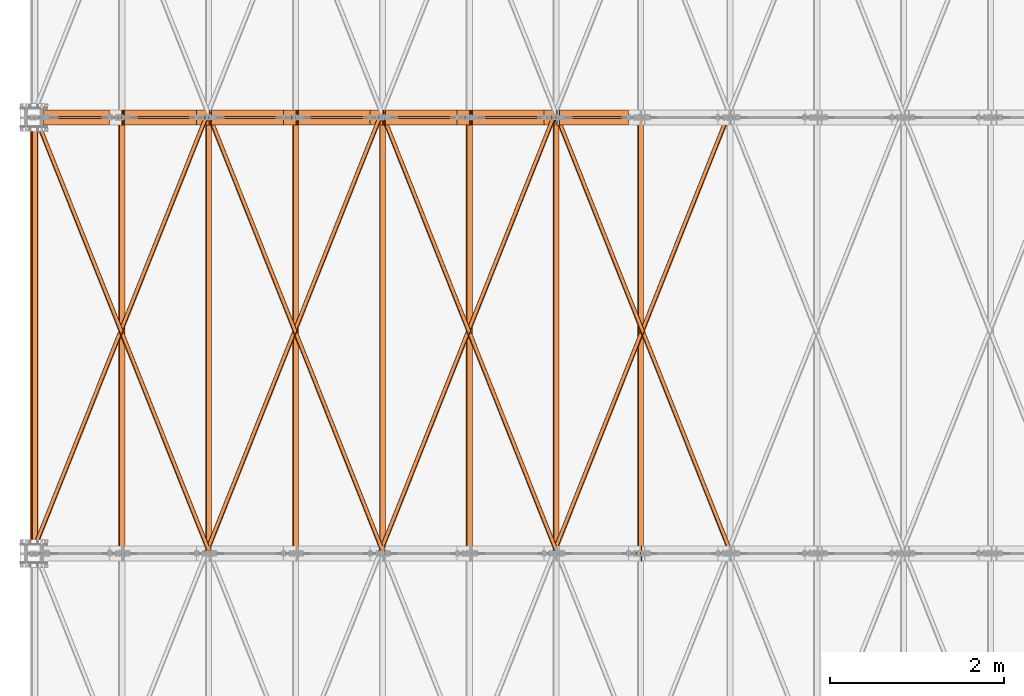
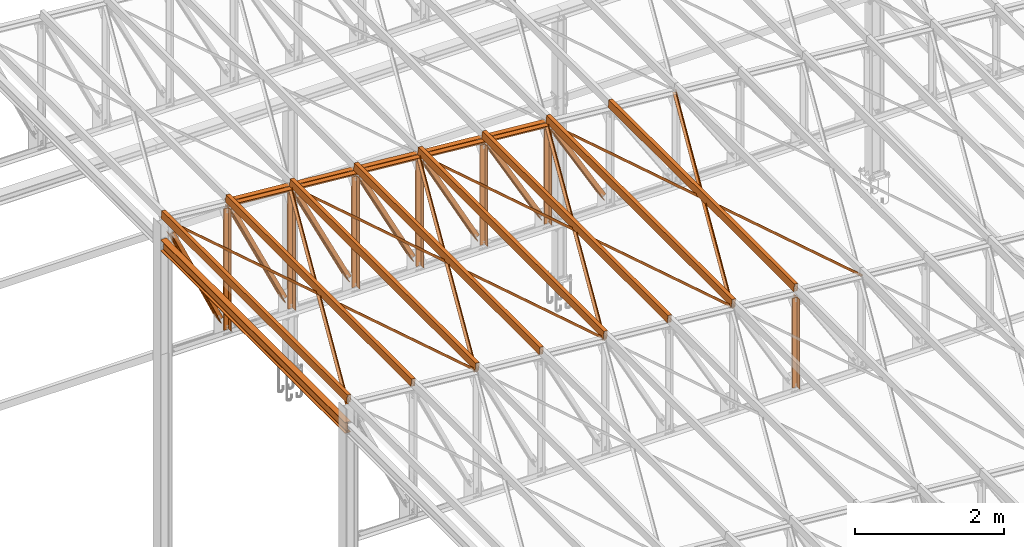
# One storey, part 239 of 251: 47 proxies.
"""IFC4 building model written with IfcOpenShell, lengths in metres."""

from ifc_helpers import new_model, si_unit, frame, frame_2d, origin_with_axes, origin_2d_with_axis, place, context, project, spatial, polyline, hollow_rectangle, i_section, l_section, outline, extrude, clip, halfspace, material, material_profile, profile_set, profile_usage, type_object, element, save


model = new_model("IFC4")

# Units and contexts
model_context = context("Model", 3, precision=1e-05, world=origin_with_axes())
ifc_project = project(units=[si_unit("LENGTHUNIT", "METRE"), si_unit("AREAUNIT", "SQUARE_METRE"), si_unit("VOLUMEUNIT", "CUBIC_METRE"), si_unit("MASSUNIT", "GRAM", prefix="KILO"), si_unit("TIMEUNIT", "SECOND"), si_unit("PLANEANGLEUNIT", "RADIAN"), si_unit("SOLIDANGLEUNIT", "STERADIAN"), si_unit("THERMODYNAMICTEMPERATUREUNIT", "DEGREE_CELSIUS")], contexts=[model_context])

# Site, building, storey
placement_1 = place(None, origin_with_axes())
site = spatial("IfcSite", under=ifc_project, at=placement_1, Name="Italia", CompositionType="ELEMENT")
building = spatial("IfcBuilding", under=site, at=placement_1, Name="Deposito", CompositionType="ELEMENT")
storey = spatial("IfcBuildingStorey", under=building, at=placement_1, Name="Storey 0", CompositionType="ELEMENT", Elevation=0.0)

# Proxies
ifc_material = material(Name="Acciaio", Category="Acciaio")
ifc_material_profile = material_profile(ifc_material, i_section(OverallWidth=0.2, OverallDepth=0.19, WebThickness=0.006, FlangeThickness=0.01, FilletRadius=0.018, at=origin_2d_with_axis()), Name="7 PILASTRO HEA200")
ifc_profile_set = profile_set([ifc_material_profile])
ifc_profile_usage_1 = profile_usage(ifc_profile_set, cardinal=1)
member_type_1 = type_object("IfcMemberType", Name="5 2L80x8", PredefinedType="MEMBER", material=ifc_profile_usage_1)
placement_2 = place(placement_1, origin_with_axes())
proxy_1_placement = place(placement_2, origin_with_axes())
element("IfcBuildingElementProxy", 1, at=proxy_1_placement, inside=storey, type_object=member_type_1, Name="40", context=model_context, shape_type="SweptSolid", body=[
    extrude(outline(polyline([(0.0, 0.0), (-0.0799999, 0.0), (-0.0799999, 0.00800037), (-0.00799942, 0.00800037), (-0.00799942, 0.0799999), (0.0, 0.0799999), (0.0, 0.0)])), frame((13.0225, 9.995, 5.06753), z_axis=(0.0, 0.0, 1.0), x_axis=(0.0, 1.0, 0.0)), (0.0, 0.0, 1.0), 1.47286),
])
ifc_profile_usage_2 = profile_usage(ifc_profile_set, cardinal=1)
member_type_2 = type_object("IfcMemberType", Name="5 2L80x8", PredefinedType="MEMBER", material=ifc_profile_usage_2)
proxy_2_placement = place(placement_2, origin_with_axes())
element("IfcBuildingElementProxy", 2, at=proxy_2_placement, inside=storey, type_object=member_type_2, Name="40", context=model_context, shape_type="SweptSolid", body=[
    extrude(outline(polyline([(0.0, 0.0), (0.00799942, 0.0), (0.00799942, -0.0719995), (0.0799999, -0.0719995), (0.0799999, -0.0799999), (0.0, -0.0799999), (0.0, 0.0)])), frame((12.9425, 10.005, 5.06753), z_axis=(0.0, 0.0, 1.0), x_axis=(0.0, 1.0, 0.0)), (0.0, 0.0, 1.0), 1.47286),
])
ifc_profile_usage_3 = profile_usage(ifc_profile_set, cardinal=1)
member_type_3 = type_object("IfcMemberType", Name="5 2L80x8", PredefinedType="MEMBER", material=ifc_profile_usage_3)
proxy_3_placement = place(placement_2, origin_with_axes())
element("IfcBuildingElementProxy", 3, at=proxy_3_placement, inside=storey, type_object=member_type_3, Name="170004", context=model_context, shape_type="SweptSolid", body=[
    extrude(outline(polyline([(0.0, 0.0), (-0.0799999, 0.0), (-0.0799999, 0.00800037), (-0.00799942, 0.00800037), (-0.00799942, 0.0799999), (0.0, 0.0799999), (0.0, 0.0)])), frame((12.0716, 14.995, 6.57981), z_axis=(0.496024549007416, 0.0, -0.868308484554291), x_axis=(0.0, 1.0, 0.0)), (0.0, 0.0, 1.0), 1.5955),
])
ifc_profile_usage_4 = profile_usage(ifc_profile_set, cardinal=1)
member_type_4 = type_object("IfcMemberType", Name="5 2L80x8", PredefinedType="MEMBER", material=ifc_profile_usage_4)
proxy_4_placement = place(placement_2, origin_with_axes())
element("IfcBuildingElementProxy", 4, at=proxy_4_placement, inside=storey, type_object=member_type_4, Name="170004", context=model_context, shape_type="SweptSolid", body=[
    extrude(outline(polyline([(0.0, 0.0), (0.00799942, 0.0), (0.00799942, -0.0719986), (0.0799999, -0.0719986), (0.0799999, -0.079999), (0.0, -0.079999), (0.0, 0.0)])), frame((12.1411, 15.005, 6.6195), z_axis=(0.496024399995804, 0.0, -0.868308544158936), x_axis=(0.0, 1.0, 0.0)), (0.0, 0.0, 1.0), 1.59551),
])
ifc_profile_usage_5 = profile_usage(ifc_profile_set, cardinal=2)
member_type_5 = type_object("IfcMemberType", Name="5 2L80x8", PredefinedType="MEMBER", material=ifc_profile_usage_5)
proxy_5_placement = place(placement_2, origin_with_axes())
element("IfcBuildingElementProxy", 5, at=proxy_5_placement, inside=storey, type_object=member_type_5, Name="230074", context=model_context, shape_type="SweptSolid", body=[
    extrude(outline(polyline([(0.0, 0.0), (0.0799999, 0.0), (0.0799999, -0.00800085), (0.00799942, -0.00800085), (0.00799942, -0.0799999), (0.0, -0.0799999), (0.0, 0.0)])), frame((7.05143, 15.005, 7.15546), z_axis=(0.996194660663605, 0.0, -0.087155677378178), x_axis=(0.0, 1.0, 0.0)), (0.0, 0.0, 1.0), 4.99498),
])
ifc_profile_usage_6 = profile_usage(ifc_profile_set, cardinal=2)
member_type_6 = type_object("IfcMemberType", Name="5 2L80x8", PredefinedType="MEMBER", material=ifc_profile_usage_6)
proxy_6_placement = place(placement_2, origin_with_axes())
element("IfcBuildingElementProxy", 6, at=proxy_6_placement, inside=storey, type_object=member_type_6, Name="230074", context=model_context, shape_type="SweptSolid", body=[
    extrude(outline(polyline([(0.0, 0.0), (-0.00799942, 0.0), (-0.00799942, 0.0719991), (-0.0799999, 0.0719991), (-0.0799999, 0.0799994), (0.0, 0.0799994), (0.0, 0.0)])), frame((7.04446, 14.995, 7.07576), z_axis=(0.99619472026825, 0.0, -0.087155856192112), x_axis=(0.0, 1.0, 0.0)), (0.0, 0.0, 1.0), 4.99498),
])
ifc_profile_usage_7 = profile_usage(ifc_profile_set, cardinal=1)
member_type_7 = type_object("IfcMemberType", Name="5 2L80x8", PredefinedType="MEMBER", material=ifc_profile_usage_7)
proxy_7_placement = place(placement_2, origin_with_axes())
element("IfcBuildingElementProxy", 7, at=proxy_7_placement, inside=storey, type_object=member_type_7, Name="54", context=model_context, shape_type="SweptSolid", body=[
    extrude(outline(polyline([(0.0, 0.0), (-0.0799999, 0.0), (-0.0799999, 0.00800037), (-0.00799942, 0.00800037), (-0.00799942, 0.0799999), (0.0, 0.0799999), (0.0, 0.0)])), frame((12.053, 14.995, 5.06753), z_axis=(0.0, 0.0, 1.0), x_axis=(0.0, 1.0, 0.0)), (0.0, 0.0, 1.0), 1.55988),
])
ifc_profile_usage_8 = profile_usage(ifc_profile_set, cardinal=1)
member_type_8 = type_object("IfcMemberType", Name="5 2L80x8", PredefinedType="MEMBER", material=ifc_profile_usage_8)
proxy_8_placement = place(placement_2, origin_with_axes())
element("IfcBuildingElementProxy", 8, at=proxy_8_placement, inside=storey, type_object=member_type_8, Name="54", context=model_context, shape_type="SweptSolid", body=[
    extrude(outline(polyline([(0.0, 0.0), (0.00799942, 0.0), (0.00799942, -0.0719995), (0.0799999, -0.0719995), (0.0799999, -0.0799999), (0.0, -0.0799999), (0.0, 0.0)])), frame((11.973, 15.005, 5.06753), z_axis=(0.0, 0.0, 1.0), x_axis=(0.0, 1.0, 0.0)), (0.0, 0.0, 1.0), 1.55988),
])
ifc_profile_usage_9 = profile_usage(ifc_profile_set, cardinal=1)
member_type_9 = type_object("IfcMemberType", Name="5 2L80x8", PredefinedType="MEMBER", material=ifc_profile_usage_9)
proxy_9_placement = place(placement_2, origin_with_axes())
element("IfcBuildingElementProxy", 9, at=proxy_9_placement, inside=storey, type_object=member_type_9, Name="180004", context=model_context, shape_type="SweptSolid", body=[
    extrude(outline(polyline([(0.0, 0.0), (-0.0799999, 0.0), (-0.0799999, 0.00799942), (-0.00799942, 0.00799942), (-0.00799942, 0.0799999), (0.0, 0.0799999), (0.0, 0.0)])), frame((11.0734, 14.995, 6.66808), z_axis=(0.487459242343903, 0.0, -0.873145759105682), x_axis=(0.0, 1.0, 0.0)), (0.0, 0.0, 1.0), 1.68149),
])
ifc_profile_usage_10 = profile_usage(ifc_profile_set, cardinal=1)
member_type_10 = type_object("IfcMemberType", Name="5 2L80x8", PredefinedType="MEMBER", material=ifc_profile_usage_10)
proxy_10_placement = place(placement_2, origin_with_axes())
element("IfcBuildingElementProxy", 10, at=proxy_10_placement, inside=storey, type_object=member_type_10, Name="180004", context=model_context, shape_type="SweptSolid", body=[
    extrude(outline(polyline([(0.0, 0.0), (0.00799942, 0.0), (0.00799942, -0.0719986), (0.0799999, -0.0719986), (0.0799999, -0.079998), (0.0, -0.079998), (0.0, 0.0)])), frame((11.1433, 15.005, 6.70707), z_axis=(0.487459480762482, 0.0, -0.873145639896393), x_axis=(0.0, 1.0, 0.0)), (0.0, 0.0, 1.0), 1.68149),
])
ifc_profile_usage_11 = profile_usage(ifc_profile_set, cardinal=1)
member_type_11 = type_object("IfcMemberType", Name="5 2L80x8", PredefinedType="MEMBER", material=ifc_profile_usage_11)
proxy_11_placement = place(placement_2, origin_with_axes())
element("IfcBuildingElementProxy", 11, at=proxy_11_placement, inside=storey, type_object=member_type_11, Name="53", context=model_context, shape_type="SweptSolid", body=[
    extrude(outline(polyline([(0.0, 0.0), (-0.0799999, 0.0), (-0.0799999, 0.00800037), (-0.00799942, 0.00800037), (-0.00799942, 0.0799999), (0.0, 0.0799999), (0.0, 0.0)])), frame((11.0568, 14.995, 5.06753), z_axis=(0.0, 0.0, 1.0), x_axis=(0.0, 1.0, 0.0)), (0.0, 0.0, 1.0), 1.64711),
])
ifc_profile_usage_12 = profile_usage(ifc_profile_set, cardinal=1)
member_type_12 = type_object("IfcMemberType", Name="5 2L80x8", PredefinedType="MEMBER", material=ifc_profile_usage_12)
proxy_12_placement = place(placement_2, origin_with_axes())
element("IfcBuildingElementProxy", 12, at=proxy_12_placement, inside=storey, type_object=member_type_12, Name="53", context=model_context, shape_type="SweptSolid", body=[
    extrude(outline(polyline([(0.0, 0.0), (0.00799942, 0.0), (0.00799942, -0.0719995), (0.0799999, -0.0719995), (0.0799999, -0.0799999), (0.0, -0.0799999), (0.0, 0.0)])), frame((10.9768, 15.005, 5.06753), z_axis=(0.0, 0.0, 1.0), x_axis=(0.0, 1.0, 0.0)), (0.0, 0.0, 1.0), 1.64711),
])
ifc_profile_usage_13 = profile_usage(ifc_profile_set, cardinal=1)
member_type_13 = type_object("IfcMemberType", Name="5 2L80x8", PredefinedType="MEMBER", material=ifc_profile_usage_13)
proxy_13_placement = place(placement_2, origin_with_axes())
element("IfcBuildingElementProxy", 13, at=proxy_13_placement, inside=storey, type_object=member_type_13, Name="190004", context=model_context, shape_type="SweptSolid", body=[
    extrude(outline(polyline([(0.0, 0.0), (-0.0799999, 0.0), (-0.0799999, 0.00799942), (-0.00799942, 0.00799942), (-0.00799942, 0.0799999), (0.0, 0.0799999), (0.0, 0.0)])), frame((10.0736, 14.995, 6.75689), z_axis=(0.469864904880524, 0.0, -0.882738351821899), x_axis=(0.0, 1.0, 0.0)), (0.0, 0.0, 1.0), 1.75054),
])
ifc_profile_usage_14 = profile_usage(ifc_profile_set, cardinal=1)
member_type_14 = type_object("IfcMemberType", Name="5 2L80x8", PredefinedType="MEMBER", material=ifc_profile_usage_14)
proxy_14_placement = place(placement_2, origin_with_axes())
element("IfcBuildingElementProxy", 14, at=proxy_14_placement, inside=storey, type_object=member_type_14, Name="190004", context=model_context, shape_type="SweptSolid", body=[
    extrude(outline(polyline([(0.0, 0.0), (0.00799942, 0.0), (0.00799942, -0.0720005), (0.0799999, -0.0720005), (0.0799999, -0.0799999), (0.0, -0.0799999), (0.0, 0.0)])), frame((10.1442, 15.005, 6.79448), z_axis=(0.469864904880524, 0.0, -0.882738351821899), x_axis=(0.0, 1.0, 0.0)), (0.0, 0.0, 1.0), 1.75054),
])
ifc_profile_usage_15 = profile_usage(ifc_profile_set, cardinal=1)
member_type_15 = type_object("IfcMemberType", Name="5 2L80x8", PredefinedType="MEMBER", material=ifc_profile_usage_15)
proxy_15_placement = place(placement_2, origin_with_axes())
element("IfcBuildingElementProxy", 15, at=proxy_15_placement, inside=storey, type_object=member_type_15, Name="52", context=model_context, shape_type="SweptSolid", body=[
    extrude(outline(polyline([(0.0, 0.0), (-0.0799999, 0.0), (-0.0799999, 0.00800037), (-0.00799942, 0.00800037), (-0.00799942, 0.0799999), (0.0, 0.0799999), (0.0, 0.0)])), frame((10.0606, 14.995, 5.06753), z_axis=(0.0, 0.0, 1.0), x_axis=(0.0, 1.0, 0.0)), (0.0, 0.0, 1.0), 1.73426),
])
ifc_profile_usage_16 = profile_usage(ifc_profile_set, cardinal=1)
member_type_16 = type_object("IfcMemberType", Name="5 2L80x8", PredefinedType="MEMBER", material=ifc_profile_usage_16)
proxy_16_placement = place(placement_2, origin_with_axes())
element("IfcBuildingElementProxy", 16, at=proxy_16_placement, inside=storey, type_object=member_type_16, Name="52", context=model_context, shape_type="SweptSolid", body=[
    extrude(outline(polyline([(0.0, 0.0), (0.00799942, 0.0), (0.00799942, -0.0719995), (0.0799999, -0.0719995), (0.0799999, -0.0799999), (0.0, -0.0799999), (0.0, 0.0)])), frame((9.98057, 15.005, 5.06753), z_axis=(0.0, 0.0, 1.0), x_axis=(0.0, 1.0, 0.0)), (0.0, 0.0, 1.0), 1.73426),
])
ifc_profile_usage_17 = profile_usage(ifc_profile_set, cardinal=1)
member_type_17 = type_object("IfcMemberType", Name="5 2L80x8", PredefinedType="MEMBER", material=ifc_profile_usage_17)
proxy_17_placement = place(placement_2, origin_with_axes())
element("IfcBuildingElementProxy", 17, at=proxy_17_placement, inside=storey, type_object=member_type_17, Name="200004", context=model_context, shape_type="SweptSolid", body=[
    extrude(outline(polyline([(0.0, 0.0), (-0.0799999, 0.0), (-0.0799999, 0.00800133), (-0.00799942, 0.00800133), (-0.00799942, 0.0799999), (0.0, 0.0799999), (0.0, 0.0)])), frame((9.07443, 14.995, 6.84501), z_axis=(0.453332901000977, 0.0, -0.891341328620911), x_axis=(0.0, 1.0, 0.0)), (0.0, 0.0, 1.0), 1.81939),
])
ifc_profile_usage_18 = profile_usage(ifc_profile_set, cardinal=1)
member_type_18 = type_object("IfcMemberType", Name="5 2L80x8", PredefinedType="MEMBER", material=ifc_profile_usage_18)
proxy_18_placement = place(placement_2, origin_with_axes())
element("IfcBuildingElementProxy", 18, at=proxy_18_placement, inside=storey, type_object=member_type_18, Name="200004", context=model_context, shape_type="SweptSolid", body=[
    extrude(outline(polyline([(0.0, 0.0), (0.00799942, 0.0), (0.00799942, -0.0719986), (0.0799999, -0.0719986), (0.0799999, -0.079999), (0.0, -0.079999), (0.0, 0.0)])), frame((9.14573, 15.005, 6.88128), z_axis=(0.453332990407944, 0.0, -0.891341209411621), x_axis=(0.0, 1.0, 0.0)), (0.0, 0.0, 1.0), 1.81938),
])
ifc_profile_usage_19 = profile_usage(ifc_profile_set, cardinal=1)
member_type_19 = type_object("IfcMemberType", Name="5 2L80x8", PredefinedType="MEMBER", material=ifc_profile_usage_19)
proxy_19_placement = place(placement_2, origin_with_axes())
element("IfcBuildingElementProxy", 19, at=proxy_19_placement, inside=storey, type_object=member_type_19, Name="51", context=model_context, shape_type="SweptSolid", body=[
    extrude(outline(polyline([(0.0, 0.0), (-0.0799999, 0.0), (-0.0799999, 0.00800037), (-0.00799942, 0.00800037), (-0.00799942, 0.0799999), (0.0, 0.0799999), (0.0, 0.0)])), frame((9.06438, 14.995, 5.06753), z_axis=(0.0, 0.0, 1.0), x_axis=(0.0, 1.0, 0.0)), (0.0, 0.0, 1.0), 1.82142),
])
ifc_profile_usage_20 = profile_usage(ifc_profile_set, cardinal=1)
member_type_20 = type_object("IfcMemberType", Name="5 2L80x8", PredefinedType="MEMBER", material=ifc_profile_usage_20)
proxy_20_placement = place(placement_2, origin_with_axes())
element("IfcBuildingElementProxy", 20, at=proxy_20_placement, inside=storey, type_object=member_type_20, Name="51", context=model_context, shape_type="SweptSolid", body=[
    extrude(outline(polyline([(0.0, 0.0), (0.00799942, 0.0), (0.00799942, -0.0719995), (0.0799999, -0.0719995), (0.0799999, -0.0799999), (0.0, -0.0799999), (0.0, 0.0)])), frame((8.98438, 15.005, 5.06753), z_axis=(0.0, 0.0, 1.0), x_axis=(0.0, 1.0, 0.0)), (0.0, 0.0, 1.0), 1.82142),
])
ifc_profile_usage_21 = profile_usage(ifc_profile_set, cardinal=1)
member_type_21 = type_object("IfcMemberType", Name="5 2L80x8", PredefinedType="MEMBER", material=ifc_profile_usage_21)
proxy_21_placement = place(placement_2, origin_with_axes())
element("IfcBuildingElementProxy", 21, at=proxy_21_placement, inside=storey, type_object=member_type_21, Name="210004", context=model_context, shape_type="SweptSolid", body=[
    extrude(outline(polyline([(0.0, 0.0), (-0.0799999, 0.0), (-0.0799999, 0.00799942), (-0.00799942, 0.00799942), (-0.00799942, 0.0799999), (0.0, 0.0799999), (0.0, 0.0)])), frame((8.07823, 14.995, 6.92755), z_axis=(0.437787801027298, 0.0, -0.89907830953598), x_axis=(0.0, 1.0, 0.0)), (0.0, 0.0, 1.0), 1.88258),
])
ifc_profile_usage_22 = profile_usage(ifc_profile_set, cardinal=1)
member_type_22 = type_object("IfcMemberType", Name="5 2L80x8", PredefinedType="MEMBER", material=ifc_profile_usage_22)
proxy_22_placement = place(placement_2, origin_with_axes())
element("IfcBuildingElementProxy", 22, at=proxy_22_placement, inside=storey, type_object=member_type_22, Name="210004", context=model_context, shape_type="SweptSolid", body=[
    extrude(outline(polyline([(0.0, 0.0), (0.00799942, 0.0), (0.00799942, -0.0719995), (0.0799999, -0.0719995), (0.0799999, -0.0799999), (0.0, -0.0799999), (0.0, 0.0)])), frame((8.15016, 15.005, 6.96258), z_axis=(0.437788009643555, 0.0, -0.899078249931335), x_axis=(0.0, 1.0, 0.0)), (0.0, 0.0, 1.0), 1.88258),
])
ifc_profile_usage_23 = profile_usage(ifc_profile_set, cardinal=1)
member_type_23 = type_object("IfcMemberType", Name="5 2L80x8", PredefinedType="MEMBER", material=ifc_profile_usage_23)
proxy_23_placement = place(placement_2, origin_with_axes())
element("IfcBuildingElementProxy", 23, at=proxy_23_placement, inside=storey, type_object=member_type_23, Name="50", context=model_context, shape_type="SweptSolid", body=[
    extrude(outline(polyline([(0.0, 0.0), (-0.0799999, 0.0), (-0.0799999, 0.00800037), (-0.00799942, 0.00800037), (-0.00799942, 0.0800004), (0.0, 0.0800004), (0.0, 0.0)])), frame((8.06818, 14.995, 5.06753), z_axis=(0.0, 0.0, 1.0), x_axis=(0.0, 1.0, 0.0)), (0.0, 0.0, 1.0), 1.90857),
])
ifc_profile_usage_24 = profile_usage(ifc_profile_set, cardinal=1)
member_type_24 = type_object("IfcMemberType", Name="5 2L80x8", PredefinedType="MEMBER", material=ifc_profile_usage_24)
proxy_24_placement = place(placement_2, origin_with_axes())
element("IfcBuildingElementProxy", 24, at=proxy_24_placement, inside=storey, type_object=member_type_24, Name="50", context=model_context, shape_type="SweptSolid", body=[
    extrude(outline(polyline([(0.0, 0.0), (0.00799942, 0.0), (0.00799942, -0.072), (0.0799999, -0.072), (0.0799999, -0.0800004), (0.0, -0.0800004), (0.0, 0.0)])), frame((7.98818, 15.005, 5.06753), z_axis=(0.0, 0.0, 1.0), x_axis=(0.0, 1.0, 0.0)), (0.0, 0.0, 1.0), 1.90857),
])
ifc_profile_usage_25 = profile_usage(ifc_profile_set, cardinal=1)
member_type_25 = type_object("IfcMemberType", Name="5 2L80x8", PredefinedType="MEMBER", material=ifc_profile_usage_25)
proxy_25_placement = place(placement_2, origin_with_axes())
element("IfcBuildingElementProxy", 25, at=proxy_25_placement, inside=storey, type_object=member_type_25, Name="220004", context=model_context, shape_type="SweptSolid", body=[
    extrude(outline(polyline([(0.0, 0.0), (-0.0799999, 0.0), (-0.0799999, 0.00800037), (-0.00799942, 0.00800037), (-0.00799942, 0.0800009), (0.0, 0.0800009), (0.0, 0.0)])), frame((7.08204, 14.995, 7.01008), z_axis=(0.423158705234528, 0.0, -0.906055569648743), x_axis=(0.0, 1.0, 0.0)), (0.0, 0.0, 1.0), 1.94634),
])
ifc_profile_usage_26 = profile_usage(ifc_profile_set, cardinal=1)
member_type_26 = type_object("IfcMemberType", Name="5 2L80x8", PredefinedType="MEMBER", material=ifc_profile_usage_26)
proxy_26_placement = place(placement_2, origin_with_axes())
element("IfcBuildingElementProxy", 26, at=proxy_26_placement, inside=storey, type_object=member_type_26, Name="220004", context=model_context, shape_type="SweptSolid", body=[
    extrude(outline(polyline([(0.0, 0.0), (0.00799942, 0.0), (0.00799942, -0.0720005), (0.0799999, -0.0720005), (0.0799999, -0.0800009), (0.0, -0.0800009), (0.0, 0.0)])), frame((7.15452, 15.005, 7.04394), z_axis=(0.423158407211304, 0.0, -0.906055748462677), x_axis=(0.0, 1.0, 0.0)), (0.0, 0.0, 1.0), 1.94634),
])
ifc_profile_usage_27 = profile_usage(ifc_profile_set, cardinal=1)
member_type_27 = type_object("IfcMemberType", Name="5 2L80x8", PredefinedType="MEMBER", material=ifc_profile_usage_27)
proxy_27_placement = place(placement_2, origin_with_axes())
element("IfcBuildingElementProxy", 27, at=proxy_27_placement, inside=storey, type_object=member_type_27, Name="49", context=model_context, shape_type="SweptSolid", body=[
    extrude(outline(polyline([(0.0, 0.0), (-0.0799999, 0.0), (-0.0799999, 0.0079999), (-0.00799942, 0.0079999), (-0.00799942, 0.0799999), (0.0, 0.0799999), (0.0, 0.0)])), frame((7.07199, 14.995, 5.06753), z_axis=(0.0, 0.0, 1.0), x_axis=(0.0, 1.0, 0.0)), (0.0, 0.0, 1.0), 1.99573),
])
ifc_profile_usage_28 = profile_usage(ifc_profile_set, cardinal=1)
member_type_28 = type_object("IfcMemberType", Name="5 2L80x8", PredefinedType="MEMBER", material=ifc_profile_usage_28)
proxy_28_placement = place(placement_2, origin_with_axes())
element("IfcBuildingElementProxy", 28, at=proxy_28_placement, inside=storey, type_object=member_type_28, Name="49", context=model_context, shape_type="SweptSolid", body=[
    extrude(outline(polyline([(0.0, 0.0), (0.00799942, 0.0), (0.00799942, -0.072), (0.0799999, -0.072), (0.0799999, -0.0799999), (0.0, -0.0799999), (0.0, 0.0)])), frame((6.99199, 15.005, 5.06753), z_axis=(0.0, 0.0, 1.0), x_axis=(0.0, 1.0, 0.0)), (0.0, 0.0, 1.0), 1.99573),
])
ifc_profile_usage_29 = profile_usage(ifc_profile_set, cardinal=1)
member_type_29 = type_object("IfcMemberType", Name="5 2L80x8", PredefinedType="MEMBER", material=ifc_profile_usage_29)
proxy_29_placement = place(placement_2, origin_with_axes())
element("IfcBuildingElementProxy", 29, at=proxy_29_placement, inside=storey, type_object=member_type_29, Name="230004", context=model_context, shape_type="SweptSolid", body=[
    extrude(outline(polyline([(0.0, 0.0), (-0.0799999, 0.0), (-0.0799999, 0.00799942), (-0.00799942, 0.00799942), (-0.00799942, 0.079999), (0.0, 0.079999), (0.0, 0.0)])), frame((6.15505, 14.995, 6.93198), z_axis=(0.410496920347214, 0.0, -0.911861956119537), x_axis=(0.0, 1.0, 0.0)), (0.0, 0.0, 1.0), 1.83665),
])
ifc_profile_usage_30 = profile_usage(ifc_profile_set, cardinal=1)
member_type_30 = type_object("IfcMemberType", Name="5 2L80x8", PredefinedType="MEMBER", material=ifc_profile_usage_30)
proxy_30_placement = place(placement_2, origin_with_axes())
element("IfcBuildingElementProxy", 30, at=proxy_30_placement, inside=storey, type_object=member_type_30, Name="230004", context=model_context, shape_type="SweptSolid", body=[
    extrude(outline(polyline([(0.0, 0.0), (0.00799942, 0.0), (0.00799942, -0.0719995), (0.0799999, -0.0719995), (0.0799999, -0.0799999), (0.0, -0.0799999), (0.0, 0.0)])), frame((6.228, 15.005, 6.96482), z_axis=(0.410497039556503, 0.0, -0.911861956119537), x_axis=(0.0, 1.0, 0.0)), (0.0, 0.0, 1.0), 1.83665),
])
ifc_profile_usage_31 = profile_usage(ifc_profile_set, cardinal=8)
member_type_31 = type_object("IfcMemberType", Name="1 RHS120x60x8", PredefinedType="MEMBER", material=ifc_profile_usage_31)
proxy_31_placement = place(placement_2, origin_with_axes())
element("IfcBuildingElementProxy", 31, at=proxy_31_placement, inside=storey, type_object=member_type_31, Name="210021", context=model_context, shape_type="SweptSolid", body=[
    extrude(hollow_rectangle(XDim=0.06, YDim=0.12, WallThickness=0.008, at=frame_2d((0.0, 0.0), x_axis=(0.996194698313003, 0.087155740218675))), frame((8.05286, 10.0, 7.1281), z_axis=(0.0, 1.0, 0.0), x_axis=(-1.0, 0.0, 0.0)), (0.0, 0.0, 1.0), 5.0),
])
ifc_profile_usage_32 = profile_usage(ifc_profile_set, cardinal=8)
member_type_32 = type_object("IfcMemberType", Name="1 RHS120x60x8", PredefinedType="MEMBER", material=ifc_profile_usage_32)
proxy_32_placement = place(placement_2, origin_with_axes())
element("IfcBuildingElementProxy", 32, at=proxy_32_placement, inside=storey, type_object=member_type_32, Name="230019", context=model_context, shape_type="SweptSolid", body=[
    extrude(hollow_rectangle(XDim=0.06, YDim=0.12, WallThickness=0.008, at=frame_2d((0.0, 0.0), x_axis=(0.996194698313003, 0.087155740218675))), frame((6.05719, 10.0, 7.30242), z_axis=(0.0, 1.0, 0.0), x_axis=(-1.0, 0.0, 0.0)), (0.0, 0.0, 1.0), 5.0),
])
ifc_profile_usage_33 = profile_usage(ifc_profile_set, cardinal=8)
member_type_33 = type_object("IfcMemberType", Name="1 RHS120x60x8", PredefinedType="MEMBER", material=ifc_profile_usage_33)
proxy_33_placement = place(placement_2, origin_with_axes())
element("IfcBuildingElementProxy", 33, at=proxy_33_placement, inside=storey, type_object=member_type_33, Name="190024", context=model_context, shape_type="SweptSolid", body=[
    extrude(hollow_rectangle(XDim=0.06, YDim=0.12, WallThickness=0.008, at=frame_2d((0.0, 0.0), x_axis=(0.996194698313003, 0.087155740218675))), frame((10.0452, 10.0, 6.95379), z_axis=(0.0, 1.0, 0.0), x_axis=(-1.0, 0.0, 0.0)), (0.0, 0.0, 1.0), 5.0),
])
ifc_profile_usage_34 = profile_usage(ifc_profile_set, cardinal=8)
member_type_34 = type_object("IfcMemberType", Name="1 RHS120x60x8", PredefinedType="MEMBER", material=ifc_profile_usage_34)
proxy_34_placement = place(placement_2, origin_with_axes())
element("IfcBuildingElementProxy", 34, at=proxy_34_placement, inside=storey, type_object=member_type_34, Name="170027", context=model_context, shape_type="SweptSolid", body=[
    extrude(hollow_rectangle(XDim=0.06, YDim=0.12, WallThickness=0.008, at=frame_2d((0.0, 0.0), x_axis=(0.996194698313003, 0.087155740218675))), frame((12.0376, 10.0, 6.77948), z_axis=(0.0, 1.0, 0.0), x_axis=(-1.0, 0.0, 0.0)), (0.0, 0.0, 1.0), 5.0),
])
ifc_profile_usage_35 = profile_usage(ifc_profile_set, cardinal=8)
member_type_35 = type_object("IfcMemberType", Name="1 RHS120x60x8", PredefinedType="MEMBER", material=ifc_profile_usage_35)
proxy_35_placement = place(placement_2, origin_with_axes())
element("IfcBuildingElementProxy", 35, at=proxy_35_placement, inside=storey, type_object=member_type_35, Name="220020", context=model_context, shape_type="SweptSolid", body=[
    extrude(hollow_rectangle(XDim=0.06, YDim=0.12, WallThickness=0.008, at=frame_2d((0.0, 0.0), x_axis=(0.996194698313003, 0.087155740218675))), frame((7.05666, 10.0, 7.21526), z_axis=(0.0, 1.0, 0.0), x_axis=(-1.0, 0.0, 0.0)), (0.0, 0.0, 1.0), 5.0),
])
ifc_profile_usage_36 = profile_usage(ifc_profile_set, cardinal=8)
member_type_36 = type_object("IfcMemberType", Name="1 RHS120x60x8", PredefinedType="MEMBER", material=ifc_profile_usage_36)
proxy_36_placement = place(placement_2, origin_with_axes())
element("IfcBuildingElementProxy", 36, at=proxy_36_placement, inside=storey, type_object=member_type_36, Name="200023", context=model_context, shape_type="SweptSolid", body=[
    extrude(hollow_rectangle(XDim=0.06, YDim=0.12, WallThickness=0.008, at=frame_2d((0.0, 0.0), x_axis=(0.996194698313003, 0.087155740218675))), frame((9.04905, 10.0, 7.04095), z_axis=(0.0, 1.0, 0.0), x_axis=(-1.0, 0.0, 0.0)), (0.0, 0.0, 1.0), 5.0),
])
ifc_profile_usage_37 = profile_usage(ifc_profile_set, cardinal=8)
member_type_37 = type_object("IfcMemberType", Name="1 RHS120x60x8", PredefinedType="MEMBER", material=ifc_profile_usage_37)
proxy_37_placement = place(placement_2, origin_with_axes())
element("IfcBuildingElementProxy", 37, at=proxy_37_placement, inside=storey, type_object=member_type_37, Name="180026", context=model_context, shape_type="SweptSolid", body=[
    extrude(hollow_rectangle(XDim=0.06, YDim=0.12, WallThickness=0.008, at=frame_2d((0.0, 0.0), x_axis=(0.996194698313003, 0.087155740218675))), frame((11.0414, 10.0, 6.86664), z_axis=(0.0, 1.0, 0.0), x_axis=(-1.0, 0.0, 0.0)), (0.0, 0.0, 1.0), 5.0),
])
ifc_profile_usage_38 = profile_usage(ifc_profile_set, cardinal=8)
member_type_38 = type_object("IfcMemberType", Name="1 RHS120x60x8", PredefinedType="MEMBER", material=ifc_profile_usage_38)
proxy_38_placement = place(placement_2, origin_with_axes())
element("IfcBuildingElementProxy", 38, at=proxy_38_placement, inside=storey, type_object=member_type_38, Name="160028", context=model_context, shape_type="SweptSolid", body=[
    extrude(hollow_rectangle(XDim=0.06, YDim=0.12, WallThickness=0.008, at=frame_2d((0.0, 0.0), x_axis=(0.996194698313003, 0.087155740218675))), frame((13.0072, 10.0, 6.69233), z_axis=(0.0, 1.0, 0.0), x_axis=(-1.0, 0.0, 0.0)), (0.0, 0.0, 1.0), 5.0),
])
ifc_profile_usage_39 = profile_usage(ifc_profile_set, cardinal=5)
member_type_39 = type_object("IfcMemberType", Name="9 ARCARECCI IPE180", PredefinedType="MEMBER", material=ifc_profile_usage_39)
proxy_39_placement = place(placement_2, frame((6.049999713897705, 7.5, 6.820181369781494), z_axis=(0.0, 0.0, 1.0), x_axis=(1.0, 0.0, 0.0)))
element("IfcBuildingElementProxy", 39, at=proxy_39_placement, inside=storey, type_object=member_type_39, Name="280019", context=model_context, shape_type="Clipping", body=[
    clip(clip(extrude(i_section(OverallWidth=0.091, OverallDepth=0.18, WebThickness=0.0053, FlangeThickness=0.008, FilletRadius=0.009, at=origin_2d_with_axis()), frame((0.0, 0.0, 0.0), z_axis=(0.0, 1.0, 0.0), x_axis=(-1.0, 0.0, 0.0)), (0.0, 0.0, 1.0), 10.0), halfspace(frame((0.0, 2.518, 0.0), z_axis=(0.0, -1.0, 0.0), x_axis=(1.0, 0.0, 0.0)), False)), halfspace(frame((0.0, 7.482, 0.0), z_axis=(0.0, -1.0, 0.0), x_axis=(1.0, 0.0, 0.0)), True)),
])
ifc_profile_usage_40 = profile_usage(ifc_profile_set, cardinal=5)
member_type_40 = type_object("IfcMemberType", Name="11 CONTROVENTI COPERTURA L50x5", PredefinedType="MEMBER", material=ifc_profile_usage_40)
proxy_40_placement = place(placement_2, origin_with_axes())
element("IfcBuildingElementProxy", 40, at=proxy_40_placement, inside=storey, type_object=member_type_40, Name="210056", context=model_context, shape_type="SweptSolid", body=[
    extrude(l_section(Depth=0.05, Width=0.05, Thickness=0.005, FilletRadius=0.007, EdgeRadius=0.0035, at=origin_2d_with_axis()), frame((12.0121, 10.0073, 6.71724), z_axis=(0.369977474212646, 0.928476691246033, -0.03236885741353), x_axis=(-0.928963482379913, 0.370171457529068, 0.0)), (0.0, 0.0, 1.0), 5.38516),
])
ifc_profile_usage_41 = profile_usage(ifc_profile_set, cardinal=5)
member_type_41 = type_object("IfcMemberType", Name="11 CONTROVENTI COPERTURA L50x5", PredefinedType="MEMBER", material=ifc_profile_usage_41)
proxy_41_placement = place(placement_2, origin_with_axes())
element("IfcBuildingElementProxy", 41, at=proxy_41_placement, inside=storey, type_object=member_type_41, Name="210057", context=model_context, shape_type="SweptSolid", body=[
    extrude(l_section(Depth=0.05, Width=0.05, Thickness=0.005, FilletRadius=0.007, EdgeRadius=0.0035, at=origin_2d_with_axis()), frame((10.0566, 15.0068, 6.89155), z_axis=(0.369977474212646, -0.928476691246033, -0.032368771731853), x_axis=(0.928963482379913, 0.370171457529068, 0.0)), (0.0, 0.0, 1.0), 5.38516),
])
ifc_profile_usage_42 = profile_usage(ifc_profile_set, cardinal=5)
member_type_42 = type_object("IfcMemberType", Name="11 CONTROVENTI COPERTURA L50x5", PredefinedType="MEMBER", material=ifc_profile_usage_42)
proxy_42_placement = place(placement_2, origin_with_axes())
element("IfcBuildingElementProxy", 42, at=proxy_42_placement, inside=storey, type_object=member_type_42, Name="230053", context=model_context, shape_type="SweptSolid", body=[
    extrude(l_section(Depth=0.05, Width=0.05, Thickness=0.005, FilletRadius=0.007, EdgeRadius=0.0035, at=origin_2d_with_axis()), frame((8.02732, 10.0073, 7.06586), z_axis=(0.369977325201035, 0.928476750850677, -0.032368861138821), x_axis=(-0.928963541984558, 0.370171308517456, 0.0)), (0.0, 0.0, 1.0), 5.38516),
])
ifc_profile_usage_43 = profile_usage(ifc_profile_set, cardinal=5)
member_type_43 = type_object("IfcMemberType", Name="11 CONTROVENTI COPERTURA L50x5", PredefinedType="MEMBER", material=ifc_profile_usage_43)
proxy_43_placement = place(placement_2, origin_with_axes())
element("IfcBuildingElementProxy", 43, at=proxy_43_placement, inside=storey, type_object=member_type_43, Name="250054", context=model_context, shape_type="SweptSolid", body=[
    extrude(l_section(Depth=0.05, Width=0.05, Thickness=0.005, FilletRadius=0.007, EdgeRadius=0.0035, at=origin_2d_with_axis()), frame((6.06855, 15.0068, 7.24017), z_axis=(0.370502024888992, -0.92826771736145, -0.032361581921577), x_axis=(0.928754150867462, 0.370696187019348, 0.0)), (0.0, 0.0, 1.0), 5.38638),
])
ifc_profile_usage_44 = profile_usage(ifc_profile_set, cardinal=5)
member_type_44 = type_object("IfcMemberType", Name="11 CONTROVENTI COPERTURA L50x5", PredefinedType="MEMBER", material=ifc_profile_usage_44)
proxy_44_placement = place(placement_2, origin_with_axes())
element("IfcBuildingElementProxy", 44, at=proxy_44_placement, inside=storey, type_object=member_type_44, Name="190050", context=model_context, shape_type="SweptSolid", body=[
    extrude(l_section(Depth=0.05, Width=0.05, Thickness=0.005, FilletRadius=0.007, EdgeRadius=0.0035, at=origin_2d_with_axis()), frame((12.049, 15.0068, 6.71724), z_axis=(0.369977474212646, -0.928476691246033, -0.03236885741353), x_axis=(0.928963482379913, 0.370171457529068, 0.0)), (0.0, 0.0, 1.0), 5.38516),
])
ifc_profile_usage_45 = profile_usage(ifc_profile_set, cardinal=5)
member_type_45 = type_object("IfcMemberType", Name="11 CONTROVENTI COPERTURA L50x5", PredefinedType="MEMBER", material=ifc_profile_usage_45)
proxy_45_placement = place(placement_2, origin_with_axes())
element("IfcBuildingElementProxy", 45, at=proxy_45_placement, inside=storey, type_object=member_type_45, Name="230047", context=model_context, shape_type="SweptSolid", body=[
    extrude(l_section(Depth=0.05, Width=0.05, Thickness=0.005, FilletRadius=0.007, EdgeRadius=0.0035, at=origin_2d_with_axis()), frame((10.0197, 10.0073, 6.89155), z_axis=(0.369977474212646, 0.928476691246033, -0.032368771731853), x_axis=(-0.928963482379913, 0.370171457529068, 0.0)), (0.0, 0.0, 1.0), 5.38516),
])
ifc_profile_usage_46 = profile_usage(ifc_profile_set, cardinal=5)
member_type_46 = type_object("IfcMemberType", Name="11 CONTROVENTI COPERTURA L50x5", PredefinedType="MEMBER", material=ifc_profile_usage_46)
proxy_46_placement = place(placement_2, origin_with_axes())
element("IfcBuildingElementProxy", 46, at=proxy_46_placement, inside=storey, type_object=member_type_46, Name="230049", context=model_context, shape_type="SweptSolid", body=[
    extrude(l_section(Depth=0.05, Width=0.05, Thickness=0.005, FilletRadius=0.007, EdgeRadius=0.0035, at=origin_2d_with_axis()), frame((8.06421, 15.0068, 7.06586), z_axis=(0.369977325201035, -0.928476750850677, -0.032368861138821), x_axis=(0.928963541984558, 0.370171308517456, 0.0)), (0.0, 0.0, 1.0), 5.38516),
])
ifc_profile_usage_47 = profile_usage(ifc_profile_set, cardinal=5)
member_type_47 = type_object("IfcMemberType", Name="11 CONTROVENTI COPERTURA L50x5", PredefinedType="MEMBER", material=ifc_profile_usage_47)
proxy_47_placement = place(placement_2, origin_with_axes())
element("IfcBuildingElementProxy", 47, at=proxy_47_placement, inside=storey, type_object=member_type_47, Name="230051", context=model_context, shape_type="SweptSolid", body=[
    extrude(l_section(Depth=0.05, Width=0.05, Thickness=0.005, FilletRadius=0.007, EdgeRadius=0.0035, at=origin_2d_with_axis()), frame((6.03166, 10.0073, 7.24017), z_axis=(0.370502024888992, 0.92826771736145, -0.032361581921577), x_axis=(-0.928754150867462, 0.370696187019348, 0.0)), (0.0, 0.0, 1.0), 5.38638),
])

save(model, "model.ifc")
